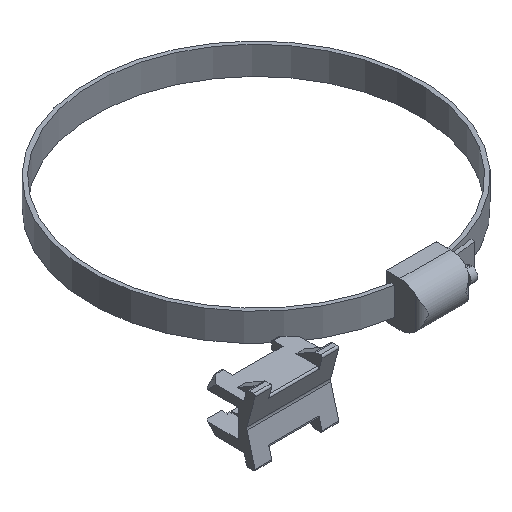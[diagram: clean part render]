
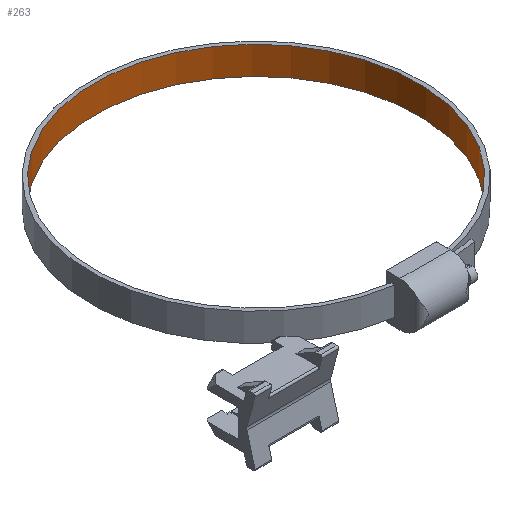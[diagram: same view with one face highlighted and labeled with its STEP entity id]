
A CAD part, isometric view. The second image highlights one B-rep face of the part: STEP entity #263.
In plain terms, the highlighted cylindrical face has radius 29 mm (diameter 58 mm), a partial arc.
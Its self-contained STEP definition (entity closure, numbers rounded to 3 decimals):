
#263 = ADVANCED_FACE( '', ( #467 ), #468, .F. );
#467 = FACE_OUTER_BOUND( '', #685, .T. );
#468 = CYLINDRICAL_SURFACE( '', #686, 29. );
#685 = EDGE_LOOP( '', ( #1518, #1519, #1520, #1521 ) );
#686 = AXIS2_PLACEMENT_3D( '', #1522, #1523, #1524 );
#1518 = ORIENTED_EDGE( '', *, *, #1894, .F. );
#1519 = ORIENTED_EDGE( '', *, *, #1890, .F. );
#1520 = ORIENTED_EDGE( '', *, *, #1895, .F. );
#1521 = ORIENTED_EDGE( '', *, *, #1887, .T. );
#1522 = CARTESIAN_POINT( '', ( 0., 34.3, 2.5 ) );
#1523 = DIRECTION( '', ( 0., 0., 1. ) );
#1524 = DIRECTION( '', ( -1., 0., 0. ) );
#1887 = EDGE_CURVE( '', #2369, #2366, #2370, .T. );
#1890 = EDGE_CURVE( '', #2374, #2375, #2376, .T. );
#1894 = EDGE_CURVE( '', #2375, #2366, #2382, .F. );
#1895 = EDGE_CURVE( '', #2369, #2374, #2383, .T. );
#2366 = VERTEX_POINT( '', #3125 );
#2369 = VERTEX_POINT( '', #3129 );
#2370 = CIRCLE( '', #3130, 29. );
#2374 = VERTEX_POINT( '', #3135 );
#2375 = VERTEX_POINT( '', #3136 );
#2376 = CIRCLE( '', #3137, 29. );
#2382 = LINE( '', #3145, #3146 );
#2383 = LINE( '', #3147, #3148 );
#3125 = CARTESIAN_POINT( '', ( -4.5, 5.651, 2.5 ) );
#3129 = CARTESIAN_POINT( '', ( 4.5, 5.651, 2.5 ) );
#3130 = AXIS2_PLACEMENT_3D( '', #3537, #3538, #3539 );
#3135 = CARTESIAN_POINT( '', ( 4.5, 5.651, -2.5 ) );
#3136 = CARTESIAN_POINT( '', ( -4.5, 5.651, -2.5 ) );
#3137 = AXIS2_PLACEMENT_3D( '', #3544, #3545, #3546 );
#3145 = CARTESIAN_POINT( '', ( -4.5, 5.651, 2.5 ) );
#3146 = VECTOR( '', #3552, 1000. );
#3147 = CARTESIAN_POINT( '', ( 4.5, 5.651, 2.5 ) );
#3148 = VECTOR( '', #3553, 1000. );
#3537 = CARTESIAN_POINT( '', ( 0., 34.3, 2.5 ) );
#3538 = DIRECTION( '', ( 0., 0., 1. ) );
#3539 = DIRECTION( '', ( 1., 0., 0. ) );
#3544 = CARTESIAN_POINT( '', ( 0., 34.3, -2.5 ) );
#3545 = DIRECTION( '', ( 0., 0., 1. ) );
#3546 = DIRECTION( '', ( 1., 0., 0. ) );
#3552 = DIRECTION( '', ( 0., 0., -1. ) );
#3553 = DIRECTION( '', ( 0., 0., -1. ) );
